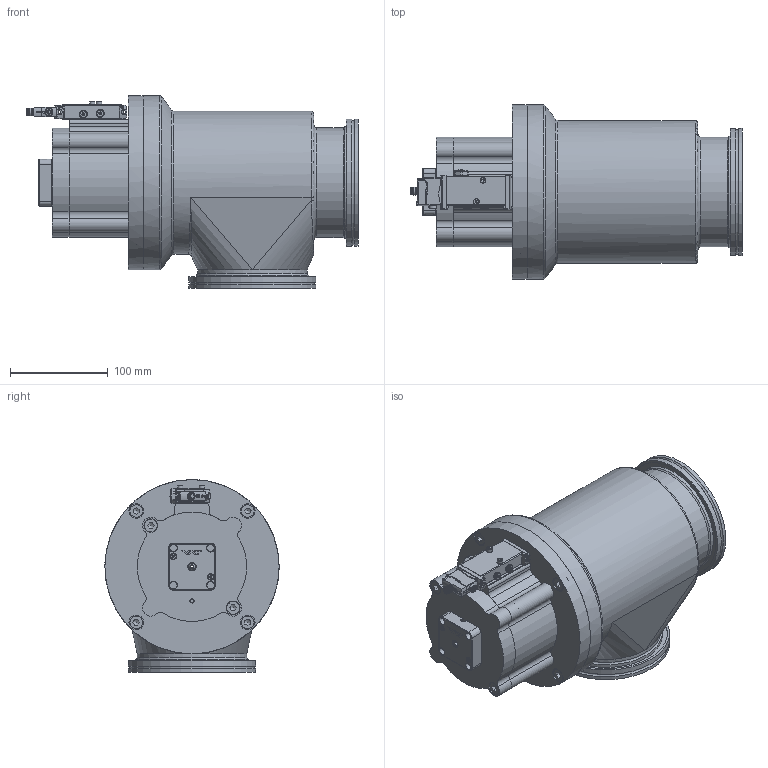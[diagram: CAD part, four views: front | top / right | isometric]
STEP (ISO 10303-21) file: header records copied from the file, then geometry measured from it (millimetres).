
FILE_DESCRIPTION(/* description */ (''),/* implementation_level */ '2;1');
FILE_NAME(/* name */ '1144691551_203.stp',/* time_stamp */ '2014-04-09T09:14:04+02:00',/* author */ (''),/* organization */ (''),/* preprocessor_version */ 'ST-DEVELOPER v11',/* originating_system */ 'SIEMENS PLM Software NX 7.5',/* authorisation */ '');
FILE_SCHEMA (('AP203_CONFIGURATION_CONTROLLED_3D_DESIGN_OF_MECHANICAL_PARTS_AND_ASSEMBLIES_MIM_LF'));
Length unit declared in the file: millimetre
Products named in the file (20): 233359; 236204_1.1; 366217; 568561; 571495; n-6134-404.1; n-6005-429.1; 518957_18219ID; n-6121-026.2; 517625_18232ID; 224847.1; 544232; 542372; 228777; 476060; 239983.3; 573596_MODEL; 518946_MODEL; 542323_MODEL; 577296
Assembly tree (26 placements, depth 3):
  577296
    476060
    228777  x4
    542372
    544232
    542323_MODEL
      517625_18232ID
      n-6121-026.2
    518946_MODEL
      518957_18219ID
    573596_MODEL
      n-6005-429.1  x2
      n-6134-404.1  x2
      571495
      568561
      366217
    239983.3
      236204_1.1  x2
      233359
    224847.1  x2
Bounding box: 339.25 x 178 x 197 mm (x, y, z)
Volume: 1841236.4 mm3; surface area: 465626.1 mm2
Topology: 38 solids, 45 shells, 1473 faces, 3658 edges, 2348 vertices
Faces by surface type: plane 784, cylinder 432, cone 152, torus 56, bspline 35, extrusion 8, sphere 6
Full cylindrical faces by diameter (mm): 1 x2, 2.46 x2, 2.5 x7, 2.6 x2, 3 x10, 3.2 x4, 3.8 x1, 3.85 x1, 4.2 x2, 4.5 x1, 5.5 x2, 5.6 x2, 5.8 x1, 6 x3, 6.2 x2, 6.5 x2, 6.66 x6, 6.7 x6, 6.8 x8, 6.9 x1, 7.2 x1, 7.4 x3, 8 x16, 8.1 x1, 8.15 x2, 8.3 x6, 8.4 x1, 8.566 x1, 9 x4, 9.728 x1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
Entity records: 49549 total; most frequent: CARTESIAN_POINT 10792, DIRECTION 6659, ORIENTED_EDGE 6208, EDGE_CURVE 3104, AXIS2_PLACEMENT_3D 2499, VERTEX_POINT 2121, EDGE_LOOP 1755, VECTOR 1661
